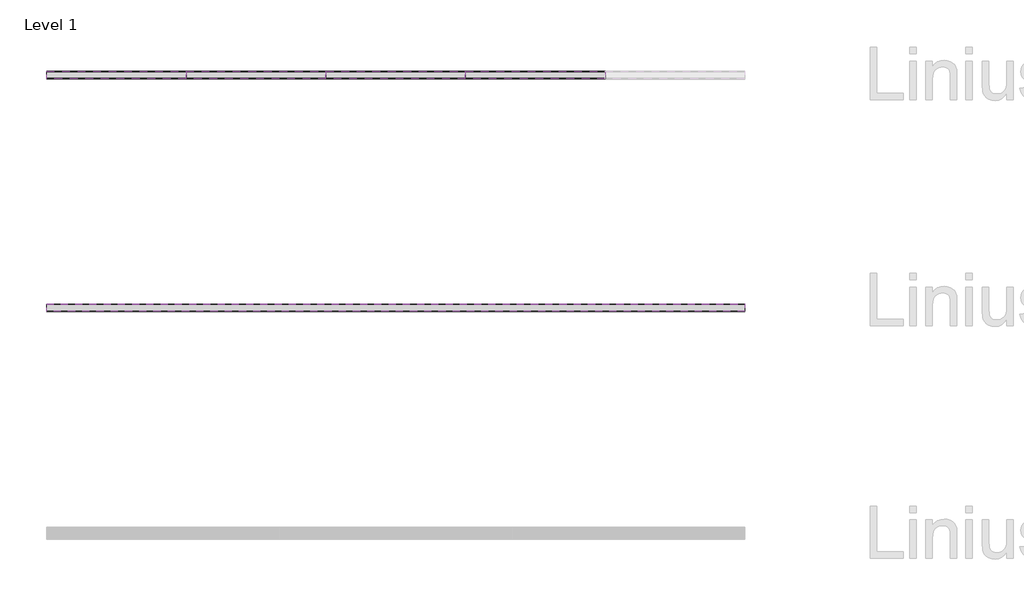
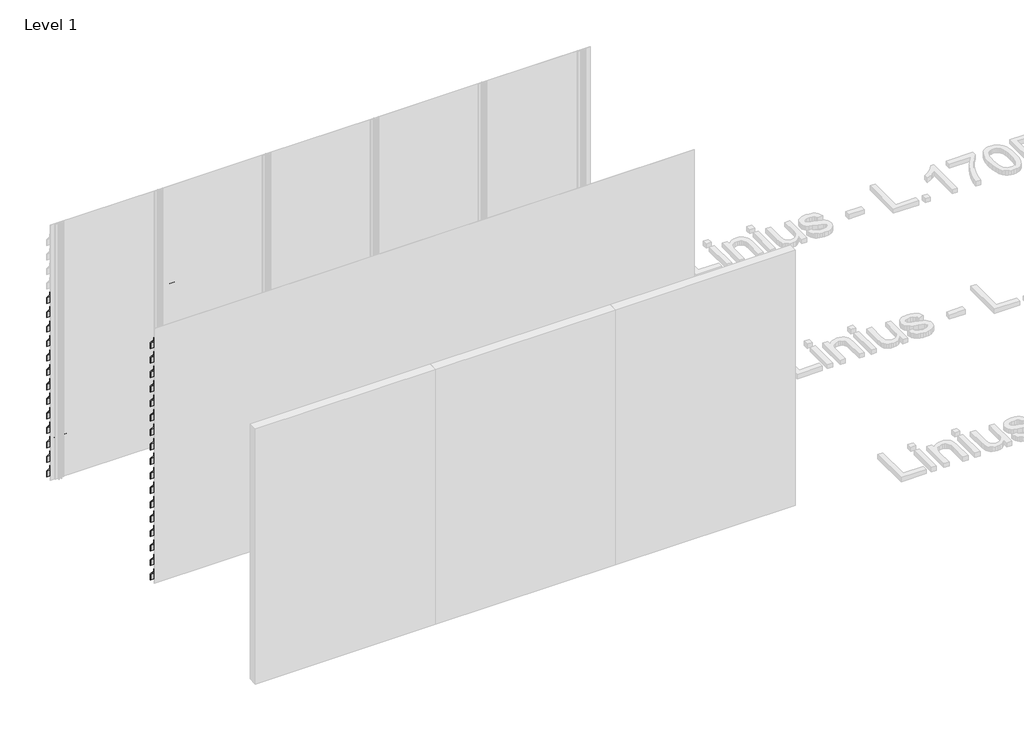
# One storey, part 68 of 121: 84 proxies.
"""IFC4 building model written with IfcOpenShell, lengths in millimetres."""

from ifc_helpers import new_model, si_unit, frame, origin, place, context, project, spatial, polyline, outline, extrude, element, save

model = new_model("IFC4")

# Units and contexts
model_context = context("Model", 3, world=origin())
ifc_project = project(units=[si_unit("LENGTHUNIT", "METRE", prefix="MILLI")], contexts=[model_context])

# Site, building, storey
site = spatial("IfcSite", under=ifc_project)
building = spatial("IfcBuilding", under=site)
storey = spatial("IfcBuildingStorey", under=building, Name="Level 1", Elevation=0.0)

# Proxies
placement = place(None, origin())
element("IfcBuildingElementProxy", 1, Name="Wall Sweeps", at=placement, inside=storey, context=model_context, shape_type="SweptSolid", body=[
    extrude(outline(polyline([(7056.5270068, 2109.0), (7056.5270068, 2040.0), (7054.5270068, 2040.9326153), (7054.5270068, 2108.2698755), (6994.0270068, 2180.0893276), (6994.0270068, 2210.0), (6996.0270068, 2210.0), (6996.0270068, 2180.8194521), (7056.5270068, 2109.0)])), frame((89466.6208097, 0.0, 0.0), z_axis=(1.0, 0.0, 0.0), x_axis=(0.0, 1.0, 0.0)), (0.0, 0.0, 1.0), 1200.0000002),
])
element("IfcBuildingElementProxy", 2, Name="Wall Sweeps", at=placement, inside=storey, context=model_context, shape_type="SweptSolid", body=[
    extrude(outline(polyline([(7056.5270068, 1939.0), (7056.5270068, 1870.0), (7054.5270068, 1870.9326153), (7054.5270068, 1938.2698755), (6994.0270068, 2010.0893276), (6994.0270068, 2040.0), (6996.0270068, 2040.0), (6996.0270068, 2010.8194521), (7056.5270068, 1939.0)])), frame((89466.6208097, 0.0, 0.0), z_axis=(1.0, 0.0, 0.0), x_axis=(0.0, 1.0, 0.0)), (0.0, 0.0, 1.0), 1200.0000002),
])
element("IfcBuildingElementProxy", 3, Name="Wall Sweeps", at=placement, inside=storey, context=model_context, shape_type="SweptSolid", body=[
    extrude(outline(polyline([(7056.5270068, 1769.0), (7056.5270068, 1700.0), (7054.5270068, 1700.9326153), (7054.5270068, 1768.2698755), (6994.0270068, 1840.0893276), (6994.0270068, 1870.0), (6996.0270068, 1870.0), (6996.0270068, 1840.8194521), (7056.5270068, 1769.0)])), frame((89466.6208097, 0.0, 0.0), z_axis=(1.0, 0.0, 0.0), x_axis=(0.0, 1.0, 0.0)), (0.0, 0.0, 1.0), 1200.0000002),
])
element("IfcBuildingElementProxy", 4, Name="Wall Sweeps", at=placement, inside=storey, context=model_context, shape_type="SweptSolid", body=[
    extrude(outline(polyline([(7056.5270068, 1599.0), (7056.5270068, 1530.0), (7054.5270068, 1530.9326153), (7054.5270068, 1598.2698755), (6994.0270068, 1670.0893276), (6994.0270068, 1700.0), (6996.0270068, 1700.0), (6996.0270068, 1670.8194521), (7056.5270068, 1599.0)])), frame((89466.6208097, 0.0, 0.0), z_axis=(1.0, 0.0, 0.0), x_axis=(0.0, 1.0, 0.0)), (0.0, 0.0, 1.0), 1200.0000002),
])
element("IfcBuildingElementProxy", 5, Name="Wall Sweeps", at=placement, inside=storey, context=model_context, shape_type="SweptSolid", body=[
    extrude(outline(polyline([(7056.5270068, 1429.0), (7056.5270068, 1360.0), (7054.5270068, 1360.9326153), (7054.5270068, 1428.2698755), (6994.0270068, 1500.0893276), (6994.0270068, 1530.0), (6996.0270068, 1530.0), (6996.0270068, 1500.8194521), (7056.5270068, 1429.0)])), frame((89466.6208097, 0.0, 0.0), z_axis=(1.0, 0.0, 0.0), x_axis=(0.0, 1.0, 0.0)), (0.0, 0.0, 1.0), 1200.0000002),
])
element("IfcBuildingElementProxy", 6, Name="Wall Sweeps", at=placement, inside=storey, context=model_context, shape_type="SweptSolid", body=[
    extrude(outline(polyline([(7056.5270068, 1259.0), (7056.5270068, 1190.0), (7054.5270068, 1190.9326153), (7054.5270068, 1258.2698755), (6994.0270068, 1330.0893276), (6994.0270068, 1360.0), (6996.0270068, 1360.0), (6996.0270068, 1330.8194521), (7056.5270068, 1259.0)])), frame((89466.6208097, 0.0, 0.0), z_axis=(1.0, 0.0, 0.0), x_axis=(0.0, 1.0, 0.0)), (0.0, 0.0, 1.0), 1200.0000002),
])
element("IfcBuildingElementProxy", 7, Name="Wall Sweeps", at=placement, inside=storey, context=model_context, shape_type="SweptSolid", body=[
    extrude(outline(polyline([(7056.5270068, 1089.0), (7056.5270068, 1020.0), (7054.5270068, 1020.9326153), (7054.5270068, 1088.2698755), (6994.0270068, 1160.0893276), (6994.0270068, 1190.0), (6996.0270068, 1190.0), (6996.0270068, 1160.8194521), (7056.5270068, 1089.0)])), frame((89466.6208097, 0.0, 0.0), z_axis=(1.0, 0.0, 0.0), x_axis=(0.0, 1.0, 0.0)), (0.0, 0.0, 1.0), 1200.0000002),
])
element("IfcBuildingElementProxy", 8, Name="Wall Sweeps", at=placement, inside=storey, context=model_context, shape_type="SweptSolid", body=[
    extrude(outline(polyline([(7056.5270068, 919.0), (7056.5270068, 850.0), (7054.5270068, 850.9326153), (7054.5270068, 918.2698755), (6994.0270068, 990.0893276), (6994.0270068, 1020.0), (6996.0270068, 1020.0), (6996.0270068, 990.8194521), (7056.5270068, 919.0)])), frame((89466.6208097, 0.0, 0.0), z_axis=(1.0, 0.0, 0.0), x_axis=(0.0, 1.0, 0.0)), (0.0, 0.0, 1.0), 1200.0000002),
])
element("IfcBuildingElementProxy", 9, Name="Wall Sweeps", at=placement, inside=storey, context=model_context, shape_type="SweptSolid", body=[
    extrude(outline(polyline([(7056.5270068, 749.0), (7056.5270068, 680.0), (7054.5270068, 680.9326153), (7054.5270068, 748.2698755), (6994.0270068, 820.0893276), (6994.0270068, 850.0), (6996.0270068, 850.0), (6996.0270068, 820.8194521), (7056.5270068, 749.0)])), frame((89466.6208097, 0.0, 0.0), z_axis=(1.0, 0.0, 0.0), x_axis=(0.0, 1.0, 0.0)), (0.0, 0.0, 1.0), 1200.0000002),
])
element("IfcBuildingElementProxy", 10, Name="Wall Sweeps", at=placement, inside=storey, context=model_context, shape_type="SweptSolid", body=[
    extrude(outline(polyline([(7056.5270068, 579.0), (7056.5270068, 510.0), (7054.5270068, 510.9326153), (7054.5270068, 578.2698755), (6994.0270068, 650.0893276), (6994.0270068, 680.0), (6996.0270068, 680.0), (6996.0270068, 650.8194521), (7056.5270068, 579.0)])), frame((89466.6208097, 0.0, 0.0), z_axis=(1.0, 0.0, 0.0), x_axis=(0.0, 1.0, 0.0)), (0.0, 0.0, 1.0), 1200.0000002),
])
element("IfcBuildingElementProxy", 11, Name="Wall Sweeps", at=placement, inside=storey, context=model_context, shape_type="SweptSolid", body=[
    extrude(outline(polyline([(7056.5270068, 409.0), (7056.5270068, 340.0), (7054.5270068, 340.9326153), (7054.5270068, 408.2698755), (6994.0270068, 480.0893276), (6994.0270068, 510.0), (6996.0270068, 510.0), (6996.0270068, 480.8194521), (7056.5270068, 409.0)])), frame((89466.6208097, 0.0, 0.0), z_axis=(1.0, 0.0, 0.0), x_axis=(0.0, 1.0, 0.0)), (0.0, 0.0, 1.0), 1200.0000002),
])
element("IfcBuildingElementProxy", 12, Name="Wall Sweeps", at=placement, inside=storey, context=model_context, shape_type="SweptSolid", body=[
    extrude(outline(polyline([(7056.5270068, 239.0), (7056.5270068, 170.0), (7054.5270068, 170.9326153), (7054.5270068, 238.2698755), (6994.0270068, 310.0893276), (6994.0270068, 340.0), (6996.0270068, 340.0), (6996.0270068, 310.8194521), (7056.5270068, 239.0)])), frame((89466.6208097, 0.0, 0.0), z_axis=(1.0, 0.0, 0.0), x_axis=(0.0, 1.0, 0.0)), (0.0, 0.0, 1.0), 1200.0000002),
])
element("IfcBuildingElementProxy", 13, Name="Wall Sweeps", at=placement, inside=storey, context=model_context, shape_type="SweptSolid", body=[
    extrude(outline(polyline([(7056.5270068, 69.0), (7056.5270068, 0.0), (7054.5270068, 0.9326153), (7054.5270068, 68.2698755), (6994.0270068, 140.0893276), (6994.0270068, 170.0), (6996.0270068, 170.0), (6996.0270068, 140.8194521), (7056.5270068, 69.0)])), frame((89466.6208097, 0.0, 0.0), z_axis=(1.0, 0.0, 0.0), x_axis=(0.0, 1.0, 0.0)), (0.0, 0.0, 1.0), 1200.0000002),
])
element("IfcBuildingElementProxy", 14, Name="Wall Sweeps", at=placement, inside=storey, context=model_context, shape_type="SweptSolid", body=[
    extrude(outline(polyline([(7056.5270068, 2789.0), (7056.5270068, 2720.0), (7054.5270068, 2720.9326153), (7054.5270068, 2788.2698755), (6994.0270068, 2860.0893276), (6994.0270068, 2890.0), (6996.0270068, 2890.0), (6996.0270068, 2860.8194521), (7056.5270068, 2789.0)])), frame((90666.6208099, 0.0, 0.0), z_axis=(1.0, 0.0, 0.0), x_axis=(0.0, 1.0, 0.0)), (0.0, 0.0, 1.0), 1199.9999999),
])
element("IfcBuildingElementProxy", 15, Name="Wall Sweeps", at=placement, inside=storey, context=model_context, shape_type="SweptSolid", body=[
    extrude(outline(polyline([(7056.5270068, 2619.0), (7056.5270068, 2550.0), (7054.5270068, 2550.9326153), (7054.5270068, 2618.2698755), (6994.0270068, 2690.0893276), (6994.0270068, 2720.0), (6996.0270068, 2720.0), (6996.0270068, 2690.8194521), (7056.5270068, 2619.0)])), frame((90666.6208099, 0.0, 0.0), z_axis=(1.0, 0.0, 0.0), x_axis=(0.0, 1.0, 0.0)), (0.0, 0.0, 1.0), 1199.9999999),
])
element("IfcBuildingElementProxy", 16, Name="Wall Sweeps", at=placement, inside=storey, context=model_context, shape_type="SweptSolid", body=[
    extrude(outline(polyline([(7056.5270068, 2449.0), (7056.5270068, 2380.0), (7054.5270068, 2380.9326153), (7054.5270068, 2448.2698755), (6994.0270068, 2520.0893276), (6994.0270068, 2550.0), (6996.0270068, 2550.0), (6996.0270068, 2520.8194521), (7056.5270068, 2449.0)])), frame((90666.6208099, 0.0, 0.0), z_axis=(1.0, 0.0, 0.0), x_axis=(0.0, 1.0, 0.0)), (0.0, 0.0, 1.0), 1199.9999999),
])
element("IfcBuildingElementProxy", 17, Name="Wall Sweeps", at=placement, inside=storey, context=model_context, shape_type="SweptSolid", body=[
    extrude(outline(polyline([(7056.5270068, 2279.0), (7056.5270068, 2210.0), (7054.5270068, 2210.9326153), (7054.5270068, 2278.2698755), (6994.0270068, 2350.0893276), (6994.0270068, 2380.0), (6996.0270068, 2380.0), (6996.0270068, 2350.8194521), (7056.5270068, 2279.0)])), frame((90666.6208099, 0.0, 0.0), z_axis=(1.0, 0.0, 0.0), x_axis=(0.0, 1.0, 0.0)), (0.0, 0.0, 1.0), 1199.9999999),
])
element("IfcBuildingElementProxy", 18, Name="Wall Sweeps", at=placement, inside=storey, context=model_context, shape_type="SweptSolid", body=[
    extrude(outline(polyline([(7056.5270068, 2109.0), (7056.5270068, 2040.0), (7054.5270068, 2040.9326153), (7054.5270068, 2108.2698755), (6994.0270068, 2180.0893276), (6994.0270068, 2210.0), (6996.0270068, 2210.0), (6996.0270068, 2180.8194521), (7056.5270068, 2109.0)])), frame((90666.6208099, 0.0, 0.0), z_axis=(1.0, 0.0, 0.0), x_axis=(0.0, 1.0, 0.0)), (0.0, 0.0, 1.0), 1199.9999999),
])
element("IfcBuildingElementProxy", 19, Name="Wall Sweeps", at=placement, inside=storey, context=model_context, shape_type="SweptSolid", body=[
    extrude(outline(polyline([(7056.5270068, 1939.0), (7056.5270068, 1870.0), (7054.5270068, 1870.9326153), (7054.5270068, 1938.2698755), (6994.0270068, 2010.0893276), (6994.0270068, 2040.0), (6996.0270068, 2040.0), (6996.0270068, 2010.8194521), (7056.5270068, 1939.0)])), frame((90666.6208099, 0.0, 0.0), z_axis=(1.0, 0.0, 0.0), x_axis=(0.0, 1.0, 0.0)), (0.0, 0.0, 1.0), 1199.9999999),
])
element("IfcBuildingElementProxy", 20, Name="Wall Sweeps", at=placement, inside=storey, context=model_context, shape_type="SweptSolid", body=[
    extrude(outline(polyline([(7056.5270068, 1769.0), (7056.5270068, 1700.0), (7054.5270068, 1700.9326153), (7054.5270068, 1768.2698755), (6994.0270068, 1840.0893276), (6994.0270068, 1870.0), (6996.0270068, 1870.0), (6996.0270068, 1840.8194521), (7056.5270068, 1769.0)])), frame((90666.6208099, 0.0, 0.0), z_axis=(1.0, 0.0, 0.0), x_axis=(0.0, 1.0, 0.0)), (0.0, 0.0, 1.0), 1199.9999999),
])
element("IfcBuildingElementProxy", 21, Name="Wall Sweeps", at=placement, inside=storey, context=model_context, shape_type="SweptSolid", body=[
    extrude(outline(polyline([(7056.5270068, 1599.0), (7056.5270068, 1530.0), (7054.5270068, 1530.9326153), (7054.5270068, 1598.2698755), (6994.0270068, 1670.0893276), (6994.0270068, 1700.0), (6996.0270068, 1700.0), (6996.0270068, 1670.8194521), (7056.5270068, 1599.0)])), frame((90666.6208099, 0.0, 0.0), z_axis=(1.0, 0.0, 0.0), x_axis=(0.0, 1.0, 0.0)), (0.0, 0.0, 1.0), 1199.9999999),
])
element("IfcBuildingElementProxy", 22, Name="Wall Sweeps", at=placement, inside=storey, context=model_context, shape_type="SweptSolid", body=[
    extrude(outline(polyline([(7056.5270068, 1429.0), (7056.5270068, 1360.0), (7054.5270068, 1360.9326153), (7054.5270068, 1428.2698755), (6994.0270068, 1500.0893276), (6994.0270068, 1530.0), (6996.0270068, 1530.0), (6996.0270068, 1500.8194521), (7056.5270068, 1429.0)])), frame((90666.6208099, 0.0, 0.0), z_axis=(1.0, 0.0, 0.0), x_axis=(0.0, 1.0, 0.0)), (0.0, 0.0, 1.0), 1199.9999999),
])
element("IfcBuildingElementProxy", 23, Name="Wall Sweeps", at=placement, inside=storey, context=model_context, shape_type="SweptSolid", body=[
    extrude(outline(polyline([(7056.5270068, 1259.0), (7056.5270068, 1190.0), (7054.5270068, 1190.9326153), (7054.5270068, 1258.2698755), (6994.0270068, 1330.0893276), (6994.0270068, 1360.0), (6996.0270068, 1360.0), (6996.0270068, 1330.8194521), (7056.5270068, 1259.0)])), frame((90666.6208099, 0.0, 0.0), z_axis=(1.0, 0.0, 0.0), x_axis=(0.0, 1.0, 0.0)), (0.0, 0.0, 1.0), 1199.9999999),
])
element("IfcBuildingElementProxy", 24, Name="Wall Sweeps", at=placement, inside=storey, context=model_context, shape_type="SweptSolid", body=[
    extrude(outline(polyline([(7056.5270068, 1089.0), (7056.5270068, 1020.0), (7054.5270068, 1020.9326153), (7054.5270068, 1088.2698755), (6994.0270068, 1160.0893276), (6994.0270068, 1190.0), (6996.0270068, 1190.0), (6996.0270068, 1160.8194521), (7056.5270068, 1089.0)])), frame((90666.6208099, 0.0, 0.0), z_axis=(1.0, 0.0, 0.0), x_axis=(0.0, 1.0, 0.0)), (0.0, 0.0, 1.0), 1199.9999999),
])
element("IfcBuildingElementProxy", 25, Name="Wall Sweeps", at=placement, inside=storey, context=model_context, shape_type="SweptSolid", body=[
    extrude(outline(polyline([(7056.5270068, 919.0), (7056.5270068, 850.0), (7054.5270068, 850.9326153), (7054.5270068, 918.2698755), (6994.0270068, 990.0893276), (6994.0270068, 1020.0), (6996.0270068, 1020.0), (6996.0270068, 990.8194521), (7056.5270068, 919.0)])), frame((90666.6208099, 0.0, 0.0), z_axis=(1.0, 0.0, 0.0), x_axis=(0.0, 1.0, 0.0)), (0.0, 0.0, 1.0), 1199.9999999),
])
element("IfcBuildingElementProxy", 26, Name="Wall Sweeps", at=placement, inside=storey, context=model_context, shape_type="SweptSolid", body=[
    extrude(outline(polyline([(7056.5270068, 749.0), (7056.5270068, 680.0), (7054.5270068, 680.9326153), (7054.5270068, 748.2698755), (6994.0270068, 820.0893276), (6994.0270068, 850.0), (6996.0270068, 850.0), (6996.0270068, 820.8194521), (7056.5270068, 749.0)])), frame((90666.6208099, 0.0, 0.0), z_axis=(1.0, 0.0, 0.0), x_axis=(0.0, 1.0, 0.0)), (0.0, 0.0, 1.0), 1199.9999999),
])
element("IfcBuildingElementProxy", 27, Name="Wall Sweeps", at=placement, inside=storey, context=model_context, shape_type="SweptSolid", body=[
    extrude(outline(polyline([(7056.5270068, 579.0), (7056.5270068, 510.0), (7054.5270068, 510.9326153), (7054.5270068, 578.2698755), (6994.0270068, 650.0893276), (6994.0270068, 680.0), (6996.0270068, 680.0), (6996.0270068, 650.8194521), (7056.5270068, 579.0)])), frame((90666.6208099, 0.0, 0.0), z_axis=(1.0, 0.0, 0.0), x_axis=(0.0, 1.0, 0.0)), (0.0, 0.0, 1.0), 1199.9999999),
])
element("IfcBuildingElementProxy", 28, Name="Wall Sweeps", at=placement, inside=storey, context=model_context, shape_type="SweptSolid", body=[
    extrude(outline(polyline([(7056.5270068, 409.0), (7056.5270068, 340.0), (7054.5270068, 340.9326153), (7054.5270068, 408.2698755), (6994.0270068, 480.0893276), (6994.0270068, 510.0), (6996.0270068, 510.0), (6996.0270068, 480.8194521), (7056.5270068, 409.0)])), frame((90666.6208099, 0.0, 0.0), z_axis=(1.0, 0.0, 0.0), x_axis=(0.0, 1.0, 0.0)), (0.0, 0.0, 1.0), 1199.9999999),
])
element("IfcBuildingElementProxy", 29, Name="Wall Sweeps", at=placement, inside=storey, context=model_context, shape_type="SweptSolid", body=[
    extrude(outline(polyline([(7056.5270068, 239.0), (7056.5270068, 170.0), (7054.5270068, 170.9326153), (7054.5270068, 238.2698755), (6994.0270068, 310.0893276), (6994.0270068, 340.0), (6996.0270068, 340.0), (6996.0270068, 310.8194521), (7056.5270068, 239.0)])), frame((90666.6208099, 0.0, 0.0), z_axis=(1.0, 0.0, 0.0), x_axis=(0.0, 1.0, 0.0)), (0.0, 0.0, 1.0), 1199.9999999),
])
element("IfcBuildingElementProxy", 30, Name="Wall Sweeps", at=placement, inside=storey, context=model_context, shape_type="SweptSolid", body=[
    extrude(outline(polyline([(7056.5270068, 69.0), (7056.5270068, 0.0), (7054.5270068, 0.9326153), (7054.5270068, 68.2698755), (6994.0270068, 140.0893276), (6994.0270068, 170.0), (6996.0270068, 170.0), (6996.0270068, 140.8194521), (7056.5270068, 69.0)])), frame((90666.6208099, 0.0, 0.0), z_axis=(1.0, 0.0, 0.0), x_axis=(0.0, 1.0, 0.0)), (0.0, 0.0, 1.0), 1199.9999999),
])
element("IfcBuildingElementProxy", 31, Name="Wall Sweeps", at=placement, inside=storey, context=model_context, shape_type="SweptSolid", body=[
    extrude(outline(polyline([(7056.5270068, 2789.0), (7056.5270068, 2720.0), (7054.5270068, 2720.9326153), (7054.5270068, 2788.2698755), (6994.0270068, 2860.0893276), (6994.0270068, 2890.0), (6996.0270068, 2890.0), (6996.0270068, 2860.8194521), (7056.5270068, 2789.0)])), frame((94266.6208095, 0.0, 0.0), z_axis=(1.0, 0.0, 0.0), x_axis=(0.0, 1.0, 0.0)), (0.0, 0.0, 1.0), 1200.0000002),
])
element("IfcBuildingElementProxy", 32, Name="Wall Sweeps", at=placement, inside=storey, context=model_context, shape_type="SweptSolid", body=[
    extrude(outline(polyline([(7056.5270068, 2619.0), (7056.5270068, 2550.0), (7054.5270068, 2550.9326153), (7054.5270068, 2618.2698755), (6994.0270068, 2690.0893276), (6994.0270068, 2720.0), (6996.0270068, 2720.0), (6996.0270068, 2690.8194521), (7056.5270068, 2619.0)])), frame((94266.6208095, 0.0, 0.0), z_axis=(1.0, 0.0, 0.0), x_axis=(0.0, 1.0, 0.0)), (0.0, 0.0, 1.0), 1200.0000002),
])
element("IfcBuildingElementProxy", 33, Name="Wall Sweeps", at=placement, inside=storey, context=model_context, shape_type="SweptSolid", body=[
    extrude(outline(polyline([(7056.5270068, 2449.0), (7056.5270068, 2380.0), (7054.5270068, 2380.9326153), (7054.5270068, 2448.2698755), (6994.0270068, 2520.0893276), (6994.0270068, 2550.0), (6996.0270068, 2550.0), (6996.0270068, 2520.8194521), (7056.5270068, 2449.0)])), frame((94266.6208095, 0.0, 0.0), z_axis=(1.0, 0.0, 0.0), x_axis=(0.0, 1.0, 0.0)), (0.0, 0.0, 1.0), 1200.0000002),
])
element("IfcBuildingElementProxy", 34, Name="Wall Sweeps", at=placement, inside=storey, context=model_context, shape_type="SweptSolid", body=[
    extrude(outline(polyline([(5056.5270068, 2789.0), (5056.5270068, 2720.0), (5054.5270068, 2720.9326153), (5054.5270068, 2788.2698755), (4994.0270068, 2860.0893276), (4994.0270068, 2890.0), (4996.0270068, 2890.0), (4996.0270068, 2860.8194521), (5056.5270068, 2789.0)])), frame((89466.6208097, 0.0, 0.0), z_axis=(1.0, 0.0, 0.0), x_axis=(0.0, 1.0, 0.0)), (0.0, 0.0, 1.0), 6000.0),
])
element("IfcBuildingElementProxy", 35, Name="Wall Sweeps", at=placement, inside=storey, context=model_context, shape_type="SweptSolid", body=[
    extrude(outline(polyline([(5056.5270068, 2619.0), (5056.5270068, 2550.0), (5054.5270068, 2550.9326153), (5054.5270068, 2618.2698755), (4994.0270068, 2690.0893276), (4994.0270068, 2720.0), (4996.0270068, 2720.0), (4996.0270068, 2690.8194521), (5056.5270068, 2619.0)])), frame((89466.6208097, 0.0, 0.0), z_axis=(1.0, 0.0, 0.0), x_axis=(0.0, 1.0, 0.0)), (0.0, 0.0, 1.0), 6000.0),
])
element("IfcBuildingElementProxy", 36, Name="Wall Sweeps", at=placement, inside=storey, context=model_context, shape_type="SweptSolid", body=[
    extrude(outline(polyline([(5056.5270068, 2449.0), (5056.5270068, 2380.0), (5054.5270068, 2380.9326153), (5054.5270068, 2448.2698755), (4994.0270068, 2520.0893276), (4994.0270068, 2550.0), (4996.0270068, 2550.0), (4996.0270068, 2520.8194521), (5056.5270068, 2449.0)])), frame((89466.6208097, 0.0, 0.0), z_axis=(1.0, 0.0, 0.0), x_axis=(0.0, 1.0, 0.0)), (0.0, 0.0, 1.0), 6000.0),
])
element("IfcBuildingElementProxy", 37, Name="Wall Sweeps", at=placement, inside=storey, context=model_context, shape_type="SweptSolid", body=[
    extrude(outline(polyline([(5056.5270068, 2279.0), (5056.5270068, 2210.0), (5054.5270068, 2210.9326153), (5054.5270068, 2278.2698755), (4994.0270068, 2350.0893276), (4994.0270068, 2380.0), (4996.0270068, 2380.0), (4996.0270068, 2350.8194521), (5056.5270068, 2279.0)])), frame((89466.6208097, 0.0, 0.0), z_axis=(1.0, 0.0, 0.0), x_axis=(0.0, 1.0, 0.0)), (0.0, 0.0, 1.0), 6000.0),
])
element("IfcBuildingElementProxy", 38, Name="Wall Sweeps", at=placement, inside=storey, context=model_context, shape_type="SweptSolid", body=[
    extrude(outline(polyline([(5056.5270068, 2109.0), (5056.5270068, 2040.0), (5054.5270068, 2040.9326153), (5054.5270068, 2108.2698755), (4994.0270068, 2180.0893276), (4994.0270068, 2210.0), (4996.0270068, 2210.0), (4996.0270068, 2180.8194521), (5056.5270068, 2109.0)])), frame((89466.6208097, 0.0, 0.0), z_axis=(1.0, 0.0, 0.0), x_axis=(0.0, 1.0, 0.0)), (0.0, 0.0, 1.0), 6000.0),
])
element("IfcBuildingElementProxy", 39, Name="Wall Sweeps", at=placement, inside=storey, context=model_context, shape_type="SweptSolid", body=[
    extrude(outline(polyline([(5056.5270068, 1939.0), (5056.5270068, 1870.0), (5054.5270068, 1870.9326153), (5054.5270068, 1938.2698755), (4994.0270068, 2010.0893276), (4994.0270068, 2040.0), (4996.0270068, 2040.0), (4996.0270068, 2010.8194521), (5056.5270068, 1939.0)])), frame((89466.6208097, 0.0, 0.0), z_axis=(1.0, 0.0, 0.0), x_axis=(0.0, 1.0, 0.0)), (0.0, 0.0, 1.0), 6000.0),
])
element("IfcBuildingElementProxy", 40, Name="Wall Sweeps", at=placement, inside=storey, context=model_context, shape_type="SweptSolid", body=[
    extrude(outline(polyline([(5056.5270068, 1769.0), (5056.5270068, 1700.0), (5054.5270068, 1700.9326153), (5054.5270068, 1768.2698755), (4994.0270068, 1840.0893276), (4994.0270068, 1870.0), (4996.0270068, 1870.0), (4996.0270068, 1840.8194521), (5056.5270068, 1769.0)])), frame((89466.6208097, 0.0, 0.0), z_axis=(1.0, 0.0, 0.0), x_axis=(0.0, 1.0, 0.0)), (0.0, 0.0, 1.0), 6000.0),
])
element("IfcBuildingElementProxy", 41, Name="Wall Sweeps", at=placement, inside=storey, context=model_context, shape_type="SweptSolid", body=[
    extrude(outline(polyline([(5056.5270068, 1599.0), (5056.5270068, 1530.0), (5054.5270068, 1530.9326153), (5054.5270068, 1598.2698755), (4994.0270068, 1670.0893276), (4994.0270068, 1700.0), (4996.0270068, 1700.0), (4996.0270068, 1670.8194521), (5056.5270068, 1599.0)])), frame((89466.6208097, 0.0, 0.0), z_axis=(1.0, 0.0, 0.0), x_axis=(0.0, 1.0, 0.0)), (0.0, 0.0, 1.0), 6000.0),
])
element("IfcBuildingElementProxy", 42, Name="Wall Sweeps", at=placement, inside=storey, context=model_context, shape_type="SweptSolid", body=[
    extrude(outline(polyline([(5056.5270068, 1429.0), (5056.5270068, 1360.0), (5054.5270068, 1360.9326153), (5054.5270068, 1428.2698755), (4994.0270068, 1500.0893276), (4994.0270068, 1530.0), (4996.0270068, 1530.0), (4996.0270068, 1500.8194521), (5056.5270068, 1429.0)])), frame((89466.6208097, 0.0, 0.0), z_axis=(1.0, 0.0, 0.0), x_axis=(0.0, 1.0, 0.0)), (0.0, 0.0, 1.0), 6000.0),
])
element("IfcBuildingElementProxy", 43, Name="Wall Sweeps", at=placement, inside=storey, context=model_context, shape_type="SweptSolid", body=[
    extrude(outline(polyline([(5056.5270068, 1259.0), (5056.5270068, 1190.0), (5054.5270068, 1190.9326153), (5054.5270068, 1258.2698755), (4994.0270068, 1330.0893276), (4994.0270068, 1360.0), (4996.0270068, 1360.0), (4996.0270068, 1330.8194521), (5056.5270068, 1259.0)])), frame((89466.6208097, 0.0, 0.0), z_axis=(1.0, 0.0, 0.0), x_axis=(0.0, 1.0, 0.0)), (0.0, 0.0, 1.0), 6000.0),
])
element("IfcBuildingElementProxy", 44, Name="Wall Sweeps", at=placement, inside=storey, context=model_context, shape_type="SweptSolid", body=[
    extrude(outline(polyline([(5056.5270068, 1089.0), (5056.5270068, 1020.0), (5054.5270068, 1020.9326153), (5054.5270068, 1088.2698755), (4994.0270068, 1160.0893276), (4994.0270068, 1190.0), (4996.0270068, 1190.0), (4996.0270068, 1160.8194521), (5056.5270068, 1089.0)])), frame((89466.6208097, 0.0, 0.0), z_axis=(1.0, 0.0, 0.0), x_axis=(0.0, 1.0, 0.0)), (0.0, 0.0, 1.0), 6000.0),
])
element("IfcBuildingElementProxy", 45, Name="Wall Sweeps", at=placement, inside=storey, context=model_context, shape_type="SweptSolid", body=[
    extrude(outline(polyline([(5056.5270068, 919.0), (5056.5270068, 850.0), (5054.5270068, 850.9326153), (5054.5270068, 918.2698755), (4994.0270068, 990.0893276), (4994.0270068, 1020.0), (4996.0270068, 1020.0), (4996.0270068, 990.8194521), (5056.5270068, 919.0)])), frame((89466.6208097, 0.0, 0.0), z_axis=(1.0, 0.0, 0.0), x_axis=(0.0, 1.0, 0.0)), (0.0, 0.0, 1.0), 6000.0),
])
element("IfcBuildingElementProxy", 46, Name="Wall Sweeps", at=placement, inside=storey, context=model_context, shape_type="SweptSolid", body=[
    extrude(outline(polyline([(5056.5270068, 749.0), (5056.5270068, 680.0), (5054.5270068, 680.9326153), (5054.5270068, 748.2698755), (4994.0270068, 820.0893276), (4994.0270068, 850.0), (4996.0270068, 850.0), (4996.0270068, 820.8194521), (5056.5270068, 749.0)])), frame((89466.6208097, 0.0, 0.0), z_axis=(1.0, 0.0, 0.0), x_axis=(0.0, 1.0, 0.0)), (0.0, 0.0, 1.0), 6000.0),
])
element("IfcBuildingElementProxy", 47, Name="Wall Sweeps", at=placement, inside=storey, context=model_context, shape_type="SweptSolid", body=[
    extrude(outline(polyline([(5056.5270068, 579.0), (5056.5270068, 510.0), (5054.5270068, 510.9326153), (5054.5270068, 578.2698755), (4994.0270068, 650.0893276), (4994.0270068, 680.0), (4996.0270068, 680.0), (4996.0270068, 650.8194521), (5056.5270068, 579.0)])), frame((89466.6208097, 0.0, 0.0), z_axis=(1.0, 0.0, 0.0), x_axis=(0.0, 1.0, 0.0)), (0.0, 0.0, 1.0), 6000.0),
])
element("IfcBuildingElementProxy", 48, Name="Wall Sweeps", at=placement, inside=storey, context=model_context, shape_type="SweptSolid", body=[
    extrude(outline(polyline([(5056.5270068, 409.0), (5056.5270068, 340.0), (5054.5270068, 340.9326153), (5054.5270068, 408.2698755), (4994.0270068, 480.0893276), (4994.0270068, 510.0), (4996.0270068, 510.0), (4996.0270068, 480.8194521), (5056.5270068, 409.0)])), frame((89466.6208097, 0.0, 0.0), z_axis=(1.0, 0.0, 0.0), x_axis=(0.0, 1.0, 0.0)), (0.0, 0.0, 1.0), 6000.0),
])
element("IfcBuildingElementProxy", 49, Name="Wall Sweeps", at=placement, inside=storey, context=model_context, shape_type="SweptSolid", body=[
    extrude(outline(polyline([(5056.5270068, 239.0), (5056.5270068, 170.0), (5054.5270068, 170.9326153), (5054.5270068, 238.2698755), (4994.0270068, 310.0893276), (4994.0270068, 340.0), (4996.0270068, 340.0), (4996.0270068, 310.8194521), (5056.5270068, 239.0)])), frame((89466.6208097, 0.0, 0.0), z_axis=(1.0, 0.0, 0.0), x_axis=(0.0, 1.0, 0.0)), (0.0, 0.0, 1.0), 6000.0),
])
element("IfcBuildingElementProxy", 50, Name="Wall Sweeps", at=placement, inside=storey, context=model_context, shape_type="SweptSolid", body=[
    extrude(outline(polyline([(5056.5270068, 69.0), (5056.5270068, 0.0), (5054.5270068, 0.9326153), (5054.5270068, 68.2698755), (4994.0270068, 140.0893276), (4994.0270068, 170.0), (4996.0270068, 170.0), (4996.0270068, 140.8194521), (5056.5270068, 69.0)])), frame((89466.6208097, 0.0, 0.0), z_axis=(1.0, 0.0, 0.0), x_axis=(0.0, 1.0, 0.0)), (0.0, 0.0, 1.0), 6000.0),
])
element("IfcBuildingElementProxy", 51, Name="Wall Sweeps", at=placement, inside=storey, context=model_context, shape_type="SweptSolid", body=[
    extrude(outline(polyline([(7056.5270068, 2789.0), (7056.5270068, 2720.0), (7054.5270068, 2720.9326153), (7054.5270068, 2788.2698755), (6994.0270068, 2860.0893276), (6994.0270068, 2890.0), (6996.0270068, 2890.0), (6996.0270068, 2860.8194521), (7056.5270068, 2789.0)])), frame((91866.6208097, 0.0, 0.0), z_axis=(1.0, 0.0, 0.0), x_axis=(0.0, 1.0, 0.0)), (0.0, 0.0, 1.0), 1199.9999999),
])
element("IfcBuildingElementProxy", 52, Name="Wall Sweeps", at=placement, inside=storey, context=model_context, shape_type="SweptSolid", body=[
    extrude(outline(polyline([(7056.5270068, 2619.0), (7056.5270068, 2550.0), (7054.5270068, 2550.9326153), (7054.5270068, 2618.2698755), (6994.0270068, 2690.0893276), (6994.0270068, 2720.0), (6996.0270068, 2720.0), (6996.0270068, 2690.8194521), (7056.5270068, 2619.0)])), frame((91866.6208097, 0.0, 0.0), z_axis=(1.0, 0.0, 0.0), x_axis=(0.0, 1.0, 0.0)), (0.0, 0.0, 1.0), 1199.9999999),
])
element("IfcBuildingElementProxy", 53, Name="Wall Sweeps", at=placement, inside=storey, context=model_context, shape_type="SweptSolid", body=[
    extrude(outline(polyline([(7056.5270068, 2449.0), (7056.5270068, 2380.0), (7054.5270068, 2380.9326153), (7054.5270068, 2448.2698755), (6994.0270068, 2520.0893276), (6994.0270068, 2550.0), (6996.0270068, 2550.0), (6996.0270068, 2520.8194521), (7056.5270068, 2449.0)])), frame((91866.6208097, 0.0, 0.0), z_axis=(1.0, 0.0, 0.0), x_axis=(0.0, 1.0, 0.0)), (0.0, 0.0, 1.0), 1199.9999999),
])
element("IfcBuildingElementProxy", 54, Name="Wall Sweeps", at=placement, inside=storey, context=model_context, shape_type="SweptSolid", body=[
    extrude(outline(polyline([(7056.5270068, 2279.0), (7056.5270068, 2210.0), (7054.5270068, 2210.9326153), (7054.5270068, 2278.2698755), (6994.0270068, 2350.0893276), (6994.0270068, 2380.0), (6996.0270068, 2380.0), (6996.0270068, 2350.8194521), (7056.5270068, 2279.0)])), frame((91866.6208097, 0.0, 0.0), z_axis=(1.0, 0.0, 0.0), x_axis=(0.0, 1.0, 0.0)), (0.0, 0.0, 1.0), 1199.9999999),
])
element("IfcBuildingElementProxy", 55, Name="Wall Sweeps", at=placement, inside=storey, context=model_context, shape_type="SweptSolid", body=[
    extrude(outline(polyline([(7056.5270068, 2109.0), (7056.5270068, 2040.0), (7054.5270068, 2040.9326153), (7054.5270068, 2108.2698755), (6994.0270068, 2180.0893276), (6994.0270068, 2210.0), (6996.0270068, 2210.0), (6996.0270068, 2180.8194521), (7056.5270068, 2109.0)])), frame((91866.6208097, 0.0, 0.0), z_axis=(1.0, 0.0, 0.0), x_axis=(0.0, 1.0, 0.0)), (0.0, 0.0, 1.0), 1199.9999999),
])
element("IfcBuildingElementProxy", 56, Name="Wall Sweeps", at=placement, inside=storey, context=model_context, shape_type="SweptSolid", body=[
    extrude(outline(polyline([(7056.5270068, 1939.0), (7056.5270068, 1870.0), (7054.5270068, 1870.9326153), (7054.5270068, 1938.2698755), (6994.0270068, 2010.0893276), (6994.0270068, 2040.0), (6996.0270068, 2040.0), (6996.0270068, 2010.8194521), (7056.5270068, 1939.0)])), frame((91866.6208097, 0.0, 0.0), z_axis=(1.0, 0.0, 0.0), x_axis=(0.0, 1.0, 0.0)), (0.0, 0.0, 1.0), 1199.9999999),
])
element("IfcBuildingElementProxy", 57, Name="Wall Sweeps", at=placement, inside=storey, context=model_context, shape_type="SweptSolid", body=[
    extrude(outline(polyline([(7056.5270068, 1769.0), (7056.5270068, 1700.0), (7054.5270068, 1700.9326153), (7054.5270068, 1768.2698755), (6994.0270068, 1840.0893276), (6994.0270068, 1870.0), (6996.0270068, 1870.0), (6996.0270068, 1840.8194521), (7056.5270068, 1769.0)])), frame((91866.6208097, 0.0, 0.0), z_axis=(1.0, 0.0, 0.0), x_axis=(0.0, 1.0, 0.0)), (0.0, 0.0, 1.0), 1199.9999999),
])
element("IfcBuildingElementProxy", 58, Name="Wall Sweeps", at=placement, inside=storey, context=model_context, shape_type="SweptSolid", body=[
    extrude(outline(polyline([(7056.5270068, 1599.0), (7056.5270068, 1530.0), (7054.5270068, 1530.9326153), (7054.5270068, 1598.2698755), (6994.0270068, 1670.0893276), (6994.0270068, 1700.0), (6996.0270068, 1700.0), (6996.0270068, 1670.8194521), (7056.5270068, 1599.0)])), frame((91866.6208097, 0.0, 0.0), z_axis=(1.0, 0.0, 0.0), x_axis=(0.0, 1.0, 0.0)), (0.0, 0.0, 1.0), 1199.9999999),
])
element("IfcBuildingElementProxy", 59, Name="Wall Sweeps", at=placement, inside=storey, context=model_context, shape_type="SweptSolid", body=[
    extrude(outline(polyline([(7056.5270068, 1429.0), (7056.5270068, 1360.0), (7054.5270068, 1360.9326153), (7054.5270068, 1428.2698755), (6994.0270068, 1500.0893276), (6994.0270068, 1530.0), (6996.0270068, 1530.0), (6996.0270068, 1500.8194521), (7056.5270068, 1429.0)])), frame((91866.6208097, 0.0, 0.0), z_axis=(1.0, 0.0, 0.0), x_axis=(0.0, 1.0, 0.0)), (0.0, 0.0, 1.0), 1199.9999999),
])
element("IfcBuildingElementProxy", 60, Name="Wall Sweeps", at=placement, inside=storey, context=model_context, shape_type="SweptSolid", body=[
    extrude(outline(polyline([(7056.5270068, 1259.0), (7056.5270068, 1190.0), (7054.5270068, 1190.9326153), (7054.5270068, 1258.2698755), (6994.0270068, 1330.0893276), (6994.0270068, 1360.0), (6996.0270068, 1360.0), (6996.0270068, 1330.8194521), (7056.5270068, 1259.0)])), frame((91866.6208097, 0.0, 0.0), z_axis=(1.0, 0.0, 0.0), x_axis=(0.0, 1.0, 0.0)), (0.0, 0.0, 1.0), 1199.9999999),
])
element("IfcBuildingElementProxy", 61, Name="Wall Sweeps", at=placement, inside=storey, context=model_context, shape_type="SweptSolid", body=[
    extrude(outline(polyline([(7056.5270068, 1089.0), (7056.5270068, 1020.0), (7054.5270068, 1020.9326153), (7054.5270068, 1088.2698755), (6994.0270068, 1160.0893276), (6994.0270068, 1190.0), (6996.0270068, 1190.0), (6996.0270068, 1160.8194521), (7056.5270068, 1089.0)])), frame((91866.6208097, 0.0, 0.0), z_axis=(1.0, 0.0, 0.0), x_axis=(0.0, 1.0, 0.0)), (0.0, 0.0, 1.0), 1199.9999999),
])
element("IfcBuildingElementProxy", 62, Name="Wall Sweeps", at=placement, inside=storey, context=model_context, shape_type="SweptSolid", body=[
    extrude(outline(polyline([(7056.5270068, 919.0), (7056.5270068, 850.0), (7054.5270068, 850.9326153), (7054.5270068, 918.2698755), (6994.0270068, 990.0893276), (6994.0270068, 1020.0), (6996.0270068, 1020.0), (6996.0270068, 990.8194521), (7056.5270068, 919.0)])), frame((91866.6208097, 0.0, 0.0), z_axis=(1.0, 0.0, 0.0), x_axis=(0.0, 1.0, 0.0)), (0.0, 0.0, 1.0), 1199.9999999),
])
element("IfcBuildingElementProxy", 63, Name="Wall Sweeps", at=placement, inside=storey, context=model_context, shape_type="SweptSolid", body=[
    extrude(outline(polyline([(7056.5270068, 749.0), (7056.5270068, 680.0), (7054.5270068, 680.9326153), (7054.5270068, 748.2698755), (6994.0270068, 820.0893276), (6994.0270068, 850.0), (6996.0270068, 850.0), (6996.0270068, 820.8194521), (7056.5270068, 749.0)])), frame((91866.6208097, 0.0, 0.0), z_axis=(1.0, 0.0, 0.0), x_axis=(0.0, 1.0, 0.0)), (0.0, 0.0, 1.0), 1199.9999999),
])
element("IfcBuildingElementProxy", 64, Name="Wall Sweeps", at=placement, inside=storey, context=model_context, shape_type="SweptSolid", body=[
    extrude(outline(polyline([(7056.5270068, 579.0), (7056.5270068, 510.0), (7054.5270068, 510.9326153), (7054.5270068, 578.2698755), (6994.0270068, 650.0893276), (6994.0270068, 680.0), (6996.0270068, 680.0), (6996.0270068, 650.8194521), (7056.5270068, 579.0)])), frame((91866.6208097, 0.0, 0.0), z_axis=(1.0, 0.0, 0.0), x_axis=(0.0, 1.0, 0.0)), (0.0, 0.0, 1.0), 1199.9999999),
])
element("IfcBuildingElementProxy", 65, Name="Wall Sweeps", at=placement, inside=storey, context=model_context, shape_type="SweptSolid", body=[
    extrude(outline(polyline([(7056.5270068, 409.0), (7056.5270068, 340.0), (7054.5270068, 340.9326153), (7054.5270068, 408.2698755), (6994.0270068, 480.0893276), (6994.0270068, 510.0), (6996.0270068, 510.0), (6996.0270068, 480.8194521), (7056.5270068, 409.0)])), frame((91866.6208097, 0.0, 0.0), z_axis=(1.0, 0.0, 0.0), x_axis=(0.0, 1.0, 0.0)), (0.0, 0.0, 1.0), 1199.9999999),
])
element("IfcBuildingElementProxy", 66, Name="Wall Sweeps", at=placement, inside=storey, context=model_context, shape_type="SweptSolid", body=[
    extrude(outline(polyline([(7056.5270068, 239.0), (7056.5270068, 170.0), (7054.5270068, 170.9326153), (7054.5270068, 238.2698755), (6994.0270068, 310.0893276), (6994.0270068, 340.0), (6996.0270068, 340.0), (6996.0270068, 310.8194521), (7056.5270068, 239.0)])), frame((91866.6208097, 0.0, 0.0), z_axis=(1.0, 0.0, 0.0), x_axis=(0.0, 1.0, 0.0)), (0.0, 0.0, 1.0), 1199.9999999),
])
element("IfcBuildingElementProxy", 67, Name="Wall Sweeps", at=placement, inside=storey, context=model_context, shape_type="SweptSolid", body=[
    extrude(outline(polyline([(7056.5270068, 69.0), (7056.5270068, 0.0), (7054.5270068, 0.9326153), (7054.5270068, 68.2698755), (6994.0270068, 140.0893276), (6994.0270068, 170.0), (6996.0270068, 170.0), (6996.0270068, 140.8194521), (7056.5270068, 69.0)])), frame((91866.6208097, 0.0, 0.0), z_axis=(1.0, 0.0, 0.0), x_axis=(0.0, 1.0, 0.0)), (0.0, 0.0, 1.0), 1199.9999999),
])
element("IfcBuildingElementProxy", 68, Name="Wall Sweeps", at=placement, inside=storey, context=model_context, shape_type="SweptSolid", body=[
    extrude(outline(polyline([(7056.5270068, 2789.0), (7056.5270068, 2720.0), (7054.5270068, 2720.9326153), (7054.5270068, 2788.2698755), (6994.0270068, 2860.0893276), (6994.0270068, 2890.0), (6996.0270068, 2890.0), (6996.0270068, 2860.8194521), (7056.5270068, 2789.0)])), frame((93066.6208096, 0.0, 0.0), z_axis=(1.0, 0.0, 0.0), x_axis=(0.0, 1.0, 0.0)), (0.0, 0.0, 1.0), 1199.9999999),
])
element("IfcBuildingElementProxy", 69, Name="Wall Sweeps", at=placement, inside=storey, context=model_context, shape_type="SweptSolid", body=[
    extrude(outline(polyline([(7056.5270068, 2619.0), (7056.5270068, 2550.0), (7054.5270068, 2550.9326153), (7054.5270068, 2618.2698755), (6994.0270068, 2690.0893276), (6994.0270068, 2720.0), (6996.0270068, 2720.0), (6996.0270068, 2690.8194521), (7056.5270068, 2619.0)])), frame((93066.6208096, 0.0, 0.0), z_axis=(1.0, 0.0, 0.0), x_axis=(0.0, 1.0, 0.0)), (0.0, 0.0, 1.0), 1199.9999999),
])
element("IfcBuildingElementProxy", 70, Name="Wall Sweeps", at=placement, inside=storey, context=model_context, shape_type="SweptSolid", body=[
    extrude(outline(polyline([(7056.5270068, 2449.0), (7056.5270068, 2380.0), (7054.5270068, 2380.9326153), (7054.5270068, 2448.2698755), (6994.0270068, 2520.0893276), (6994.0270068, 2550.0), (6996.0270068, 2550.0), (6996.0270068, 2520.8194521), (7056.5270068, 2449.0)])), frame((93066.6208096, 0.0, 0.0), z_axis=(1.0, 0.0, 0.0), x_axis=(0.0, 1.0, 0.0)), (0.0, 0.0, 1.0), 1199.9999999),
])
element("IfcBuildingElementProxy", 71, Name="Wall Sweeps", at=placement, inside=storey, context=model_context, shape_type="SweptSolid", body=[
    extrude(outline(polyline([(7056.5270068, 2279.0), (7056.5270068, 2210.0), (7054.5270068, 2210.9326153), (7054.5270068, 2278.2698755), (6994.0270068, 2350.0893276), (6994.0270068, 2380.0), (6996.0270068, 2380.0), (6996.0270068, 2350.8194521), (7056.5270068, 2279.0)])), frame((93066.6208096, 0.0, 0.0), z_axis=(1.0, 0.0, 0.0), x_axis=(0.0, 1.0, 0.0)), (0.0, 0.0, 1.0), 1199.9999999),
])
element("IfcBuildingElementProxy", 72, Name="Wall Sweeps", at=placement, inside=storey, context=model_context, shape_type="SweptSolid", body=[
    extrude(outline(polyline([(7056.5270068, 2109.0), (7056.5270068, 2040.0), (7054.5270068, 2040.9326153), (7054.5270068, 2108.2698755), (6994.0270068, 2180.0893276), (6994.0270068, 2210.0), (6996.0270068, 2210.0), (6996.0270068, 2180.8194521), (7056.5270068, 2109.0)])), frame((93066.6208096, 0.0, 0.0), z_axis=(1.0, 0.0, 0.0), x_axis=(0.0, 1.0, 0.0)), (0.0, 0.0, 1.0), 1199.9999999),
])
element("IfcBuildingElementProxy", 73, Name="Wall Sweeps", at=placement, inside=storey, context=model_context, shape_type="SweptSolid", body=[
    extrude(outline(polyline([(7056.5270068, 1939.0), (7056.5270068, 1870.0), (7054.5270068, 1870.9326153), (7054.5270068, 1938.2698755), (6994.0270068, 2010.0893276), (6994.0270068, 2040.0), (6996.0270068, 2040.0), (6996.0270068, 2010.8194521), (7056.5270068, 1939.0)])), frame((93066.6208096, 0.0, 0.0), z_axis=(1.0, 0.0, 0.0), x_axis=(0.0, 1.0, 0.0)), (0.0, 0.0, 1.0), 1199.9999999),
])
element("IfcBuildingElementProxy", 74, Name="Wall Sweeps", at=placement, inside=storey, context=model_context, shape_type="SweptSolid", body=[
    extrude(outline(polyline([(7056.5270068, 1769.0), (7056.5270068, 1700.0), (7054.5270068, 1700.9326153), (7054.5270068, 1768.2698755), (6994.0270068, 1840.0893276), (6994.0270068, 1870.0), (6996.0270068, 1870.0), (6996.0270068, 1840.8194521), (7056.5270068, 1769.0)])), frame((93066.6208096, 0.0, 0.0), z_axis=(1.0, 0.0, 0.0), x_axis=(0.0, 1.0, 0.0)), (0.0, 0.0, 1.0), 1199.9999999),
])
element("IfcBuildingElementProxy", 75, Name="Wall Sweeps", at=placement, inside=storey, context=model_context, shape_type="SweptSolid", body=[
    extrude(outline(polyline([(7056.5270068, 1599.0), (7056.5270068, 1530.0), (7054.5270068, 1530.9326153), (7054.5270068, 1598.2698755), (6994.0270068, 1670.0893276), (6994.0270068, 1700.0), (6996.0270068, 1700.0), (6996.0270068, 1670.8194521), (7056.5270068, 1599.0)])), frame((93066.6208096, 0.0, 0.0), z_axis=(1.0, 0.0, 0.0), x_axis=(0.0, 1.0, 0.0)), (0.0, 0.0, 1.0), 1199.9999999),
])
element("IfcBuildingElementProxy", 76, Name="Wall Sweeps", at=placement, inside=storey, context=model_context, shape_type="SweptSolid", body=[
    extrude(outline(polyline([(7056.5270068, 1429.0), (7056.5270068, 1360.0), (7054.5270068, 1360.9326153), (7054.5270068, 1428.2698755), (6994.0270068, 1500.0893276), (6994.0270068, 1530.0), (6996.0270068, 1530.0), (6996.0270068, 1500.8194521), (7056.5270068, 1429.0)])), frame((93066.6208096, 0.0, 0.0), z_axis=(1.0, 0.0, 0.0), x_axis=(0.0, 1.0, 0.0)), (0.0, 0.0, 1.0), 1199.9999999),
])
element("IfcBuildingElementProxy", 77, Name="Wall Sweeps", at=placement, inside=storey, context=model_context, shape_type="SweptSolid", body=[
    extrude(outline(polyline([(7056.5270068, 1259.0), (7056.5270068, 1190.0), (7054.5270068, 1190.9326153), (7054.5270068, 1258.2698755), (6994.0270068, 1330.0893276), (6994.0270068, 1360.0), (6996.0270068, 1360.0), (6996.0270068, 1330.8194521), (7056.5270068, 1259.0)])), frame((93066.6208096, 0.0, 0.0), z_axis=(1.0, 0.0, 0.0), x_axis=(0.0, 1.0, 0.0)), (0.0, 0.0, 1.0), 1199.9999999),
])
element("IfcBuildingElementProxy", 78, Name="Wall Sweeps", at=placement, inside=storey, context=model_context, shape_type="SweptSolid", body=[
    extrude(outline(polyline([(7056.5270068, 1089.0), (7056.5270068, 1020.0), (7054.5270068, 1020.9326153), (7054.5270068, 1088.2698755), (6994.0270068, 1160.0893276), (6994.0270068, 1190.0), (6996.0270068, 1190.0), (6996.0270068, 1160.8194521), (7056.5270068, 1089.0)])), frame((93066.6208096, 0.0, 0.0), z_axis=(1.0, 0.0, 0.0), x_axis=(0.0, 1.0, 0.0)), (0.0, 0.0, 1.0), 1199.9999999),
])
element("IfcBuildingElementProxy", 79, Name="Wall Sweeps", at=placement, inside=storey, context=model_context, shape_type="SweptSolid", body=[
    extrude(outline(polyline([(7056.5270068, 919.0), (7056.5270068, 850.0), (7054.5270068, 850.9326153), (7054.5270068, 918.2698755), (6994.0270068, 990.0893276), (6994.0270068, 1020.0), (6996.0270068, 1020.0), (6996.0270068, 990.8194521), (7056.5270068, 919.0)])), frame((93066.6208096, 0.0, 0.0), z_axis=(1.0, 0.0, 0.0), x_axis=(0.0, 1.0, 0.0)), (0.0, 0.0, 1.0), 1199.9999999),
])
element("IfcBuildingElementProxy", 80, Name="Wall Sweeps", at=placement, inside=storey, context=model_context, shape_type="SweptSolid", body=[
    extrude(outline(polyline([(7056.5270068, 749.0), (7056.5270068, 680.0), (7054.5270068, 680.9326153), (7054.5270068, 748.2698755), (6994.0270068, 820.0893276), (6994.0270068, 850.0), (6996.0270068, 850.0), (6996.0270068, 820.8194521), (7056.5270068, 749.0)])), frame((93066.6208096, 0.0, 0.0), z_axis=(1.0, 0.0, 0.0), x_axis=(0.0, 1.0, 0.0)), (0.0, 0.0, 1.0), 1199.9999999),
])
element("IfcBuildingElementProxy", 81, Name="Wall Sweeps", at=placement, inside=storey, context=model_context, shape_type="SweptSolid", body=[
    extrude(outline(polyline([(7056.5270068, 579.0), (7056.5270068, 510.0), (7054.5270068, 510.9326153), (7054.5270068, 578.2698755), (6994.0270068, 650.0893276), (6994.0270068, 680.0), (6996.0270068, 680.0), (6996.0270068, 650.8194521), (7056.5270068, 579.0)])), frame((93066.6208096, 0.0, 0.0), z_axis=(1.0, 0.0, 0.0), x_axis=(0.0, 1.0, 0.0)), (0.0, 0.0, 1.0), 1199.9999999),
])
element("IfcBuildingElementProxy", 82, Name="Wall Sweeps", at=placement, inside=storey, context=model_context, shape_type="SweptSolid", body=[
    extrude(outline(polyline([(7056.5270068, 409.0), (7056.5270068, 340.0), (7054.5270068, 340.9326153), (7054.5270068, 408.2698755), (6994.0270068, 480.0893276), (6994.0270068, 510.0), (6996.0270068, 510.0), (6996.0270068, 480.8194521), (7056.5270068, 409.0)])), frame((93066.6208096, 0.0, 0.0), z_axis=(1.0, 0.0, 0.0), x_axis=(0.0, 1.0, 0.0)), (0.0, 0.0, 1.0), 1199.9999999),
])
element("IfcBuildingElementProxy", 83, Name="Wall Sweeps", at=placement, inside=storey, context=model_context, shape_type="SweptSolid", body=[
    extrude(outline(polyline([(7056.5270068, 239.0), (7056.5270068, 170.0), (7054.5270068, 170.9326153), (7054.5270068, 238.2698755), (6994.0270068, 310.0893276), (6994.0270068, 340.0), (6996.0270068, 340.0), (6996.0270068, 310.8194521), (7056.5270068, 239.0)])), frame((93066.6208096, 0.0, 0.0), z_axis=(1.0, 0.0, 0.0), x_axis=(0.0, 1.0, 0.0)), (0.0, 0.0, 1.0), 1199.9999999),
])
element("IfcBuildingElementProxy", 84, Name="Wall Sweeps", at=placement, inside=storey, context=model_context, shape_type="SweptSolid", body=[
    extrude(outline(polyline([(7056.5270068, 69.0), (7056.5270068, 0.0), (7054.5270068, 0.9326153), (7054.5270068, 68.2698755), (6994.0270068, 140.0893276), (6994.0270068, 170.0), (6996.0270068, 170.0), (6996.0270068, 140.8194521), (7056.5270068, 69.0)])), frame((93066.6208096, 0.0, 0.0), z_axis=(1.0, 0.0, 0.0), x_axis=(0.0, 1.0, 0.0)), (0.0, 0.0, 1.0), 1199.9999999),
])

save(model, "model.ifc")
